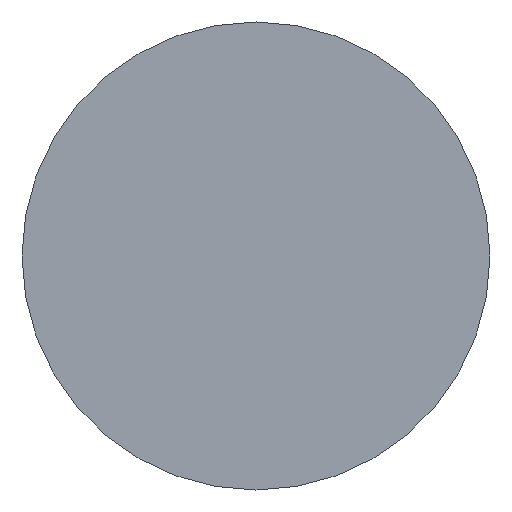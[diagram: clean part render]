
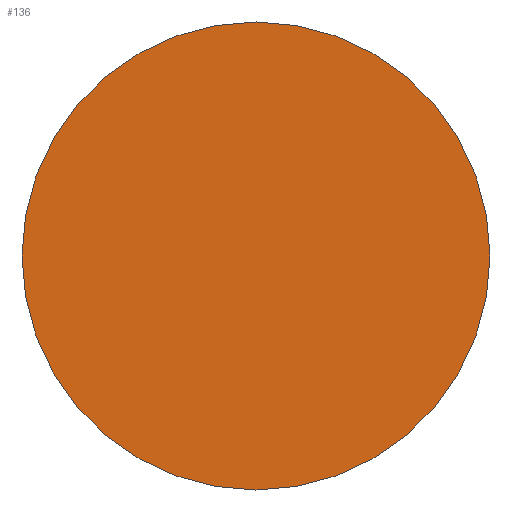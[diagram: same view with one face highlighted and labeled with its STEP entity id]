
A CAD part, left-side view. The second image highlights one B-rep face of the part: STEP entity #136.
In plain terms, the highlighted planar face has unit normal (-1, 0, 0).
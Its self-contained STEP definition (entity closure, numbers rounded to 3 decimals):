
#1 = CARTESIAN_POINT ( 'NONE',  ( -237., 0., -5.5 ) ) ;
#14 = VERTEX_POINT ( 'NONE', #1 ) ;
#15 = VERTEX_POINT ( 'NONE', #131 ) ;
#19 = DIRECTION ( 'NONE',  ( -1., 0., 0. ) ) ;
#22 = CARTESIAN_POINT ( 'NONE',  ( -237., 0., 0. ) ) ;
#24 = CARTESIAN_POINT ( 'NONE',  ( -237., 0., 0. ) ) ;
#26 = DIRECTION ( 'NONE',  ( 0., 0., 1. ) ) ;
#55 = DIRECTION ( 'NONE',  ( 0., 0., 1. ) ) ;
#56 = DIRECTION ( 'NONE',  ( -1., 0., 0. ) ) ;
#58 = PLANE ( 'NONE',  #126 ) ;
#59 = DIRECTION ( 'NONE',  ( 0., 0., 1. ) ) ;
#60 = DIRECTION ( 'NONE',  ( -1., 0., 0. ) ) ;
#61 = CARTESIAN_POINT ( 'NONE',  ( -237., 0., 0. ) ) ;
#70 = EDGE_CURVE ( 'NONE', #14, #15, #112, .T. ) ;
#72 = AXIS2_PLACEMENT_3D ( 'NONE', #22, #19, #26 ) ;
#88 = EDGE_LOOP ( 'NONE', ( #94, #95 ) ) ;
#90 = CIRCLE ( 'NONE', #125, 5.5 ) ;
#94 = ORIENTED_EDGE ( 'NONE', *, *, #123, .T. ) ;
#95 = ORIENTED_EDGE ( 'NONE', *, *, #70, .T. ) ;
#110 = FACE_OUTER_BOUND ( 'NONE', #88, .T. ) ;
#112 = CIRCLE ( 'NONE', #72, 5.5 ) ;
#123 = EDGE_CURVE ( 'NONE', #15, #14, #90, .T. ) ;
#125 = AXIS2_PLACEMENT_3D ( 'NONE', #24, #60, #59 ) ;
#126 = AXIS2_PLACEMENT_3D ( 'NONE', #61, #56, #55 ) ;
#131 = CARTESIAN_POINT ( 'NONE',  ( -237., 0., 5.5 ) ) ;
#136 = ADVANCED_FACE ( 'NONE', ( #110 ), #58, .T. ) ;
